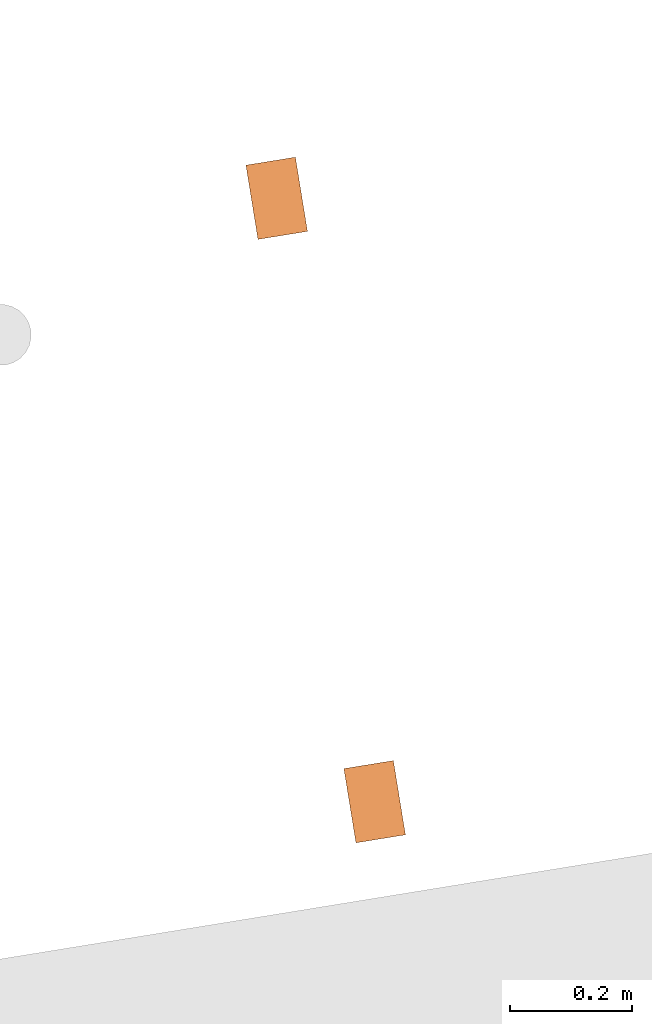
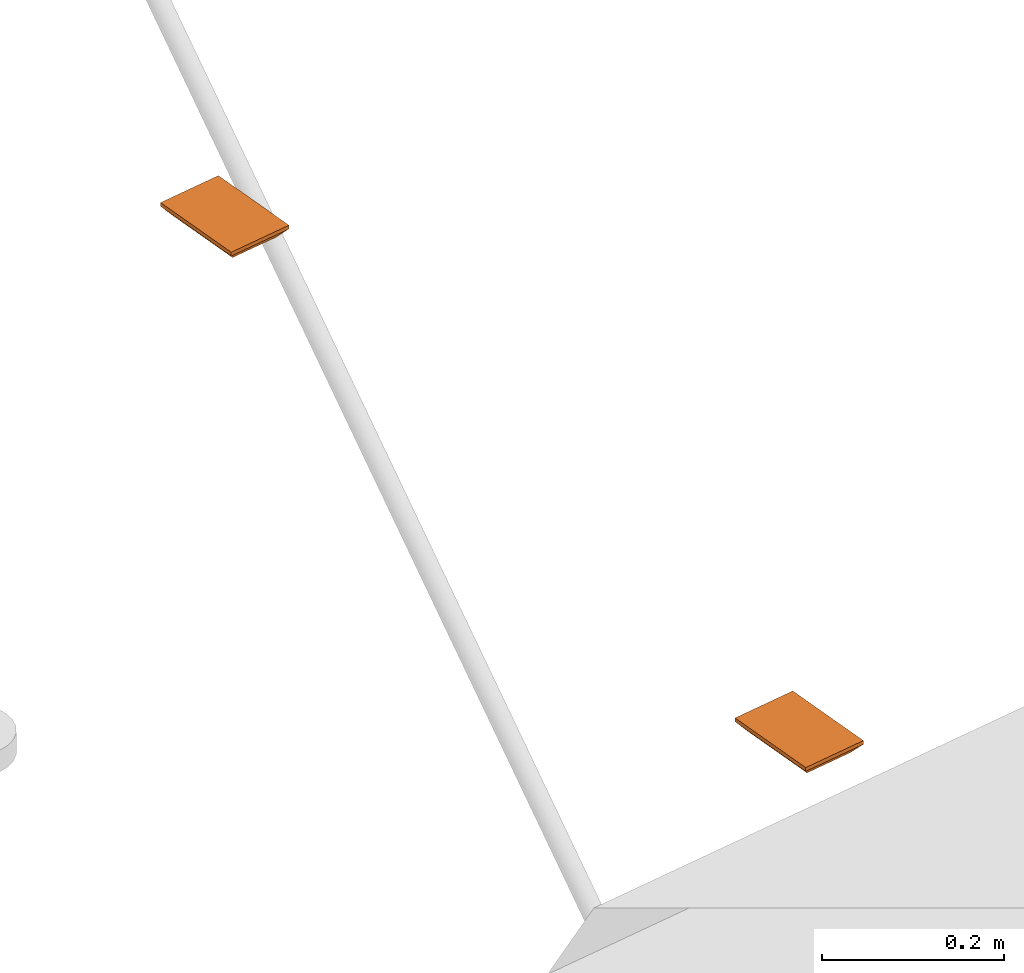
# One storey, part 19 of 33: 2 proxies.
"""IFC2X3 building model written with IfcOpenShell, lengths in millimetres."""

from ifc_helpers import new_model, entity, si_unit, converted_unit, derived_unit, direction, frame, origin, origin_with_axes, place, context, subcontext, project, spatial, faceted_brep, source, transform, mapped, material, type_object, element, save


model = new_model("IFC2X3")

# Units and contexts
plan_context = context("Plan", 3, precision=1e-05, world=origin_with_axes())
model_context = context("Model", 3, precision=0.01, world=origin(), true_north=direction((6.12323399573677e-17, 1.0)))
body_context = subcontext(model_context, "Body", "Model", "MODEL_VIEW")
ifc_project = project(units=[converted_unit("PLANEANGLEUNIT", "DEGREE", entity("IfcPositiveLengthMeasure", 0.0174532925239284), si_unit("PLANEANGLEUNIT", "RADIAN"), dimensions=[0, 0, 0, 0, 0, 0, 0]), si_unit("AREAUNIT", "SQUARE_METRE"), si_unit("LENGTHUNIT", "METRE", prefix="MILLI"), si_unit("MASSUNIT", "GRAM", prefix="KILO"), si_unit("POWERUNIT", "WATT"), si_unit("PRESSUREUNIT", "PASCAL", prefix="KILO"), si_unit("FORCEUNIT", "NEWTON", prefix="KILO"), si_unit("ELECTRICVOLTAGEUNIT", "VOLT"), si_unit("ELECTRICCURRENTUNIT", "AMPERE"), si_unit("THERMODYNAMICTEMPERATUREUNIT", "DEGREE_CELSIUS"), si_unit("TIMEUNIT", "SECOND"), si_unit("VOLUMEUNIT", "CUBIC_METRE"), derived_unit("LINEARVELOCITYUNIT", [(si_unit("LENGTHUNIT", "METRE"), 1), (si_unit("TIMEUNIT", "SECOND"), -1)]), derived_unit("VOLUMETRICFLOWRATEUNIT", [(si_unit("VOLUMEUNIT", "CUBIC_METRE"), 1), (si_unit("TIMEUNIT", "SECOND"), -1)]), derived_unit("THERMALTRANSMITTANCEUNIT", [(si_unit("POWERUNIT", "WATT"), 1), (si_unit("THERMODYNAMICTEMPERATUREUNIT", "KELVIN"), -1), (si_unit("AREAUNIT", "SQUARE_METRE"), -1)]), derived_unit("SOUNDPRESSUREUNIT", [(si_unit("PRESSUREUNIT", "PASCAL"), 1)])], contexts=[model_context, plan_context])

# Site, building, storey
site_placement = place(None, frame((-0.219946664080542, 0.12226179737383, 0.0), z_axis=(0.0, 0.0, 1.0), x_axis=(-0.160236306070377, 0.987078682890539, 0.0)))
site = spatial("IfcSite", under=ifc_project, at=site_placement, Name="Default", CompositionType="ELEMENT")
building_placement = place(site_placement, origin_with_axes())
building = spatial("IfcBuilding", under=site, at=building_placement, CompositionType="ELEMENT")
storey_placement = place(building_placement, frame((0.0, 0.0, 59000.0), z_axis=(0.0, 0.0, 1.0), x_axis=(1.0, 0.0, 0.0)))
storey = spatial("IfcBuildingStorey", under=building, at=storey_placement, Name="Nivå F", CompositionType="ELEMENT", Elevation=59000.0)

# Proxies
ifc_material = material(Name="<Unnamed>")
building_element_proxy_type = type_object("IfcBuildingElementProxyType", Name="Dobbel stikk i tak m_boks 2P+J PH:Earthed reces socket c2", PredefinedType="NOTDEFINED", material=ifc_material)
shared_shape = source(origin(), body_context, "Body", "Brep", [
    faceted_brep([(25.250000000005, -18.3000000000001, -17.8944271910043), (25.250000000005, -18.5954451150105, -17.489897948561), (25.250000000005, -18.7000000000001, -17.0), (25.250000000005, -18.7000000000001, -5.0), (25.250000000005, -19.5000000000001, -5.0), (25.250000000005, -19.5000000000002, -17.0), (25.250000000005, -18.9142135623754, -18.4142135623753), (25.250000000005, -17.5000000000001, -19.0), (25.250000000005, -17.5000000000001, -11.0), (25.250000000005, -18.3000000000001, -11.0), (24.250000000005, -19.5000000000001, -5.0), (24.250000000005, -18.7000000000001, -5.0), (24.250000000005, -18.7000000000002, -17.0), (24.250000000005, -18.5954451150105, -17.489897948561), (24.250000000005, -18.3000000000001, -17.8944271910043), (24.250000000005, -18.3000000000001, -11.0), (24.250000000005, -17.5000000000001, -11.0), (24.250000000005, -17.5000000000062, -19.0), (24.250000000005, -18.9142135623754, -18.4142135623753), (24.250000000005, -19.5000000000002, -17.0)], [[[0, 1, 2, 3, 4, 5, 6, 7, 8, 9]], [[10, 11, 12, 13, 14, 15, 16, 17, 18, 19]], [[11, 10, 4, 3]], [[12, 11, 3, 2]], [[2, 1, 13, 12]], [[0, 14, 13, 1]], [[15, 14, 0, 9]], [[16, 15, 9, 8]], [[17, 16, 8, 7]], [[17, 7, 6, 18]], [[6, 5, 19, 18]], [[10, 19, 5, 4]]]),
    faceted_brep([(24.250000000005, 18.3000000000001, -17.8944271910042), (24.250000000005, 18.5954451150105, -17.4898979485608), (24.250000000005, 18.7000000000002, -17.0), (24.250000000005, 18.7000000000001, -5.0), (24.250000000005, 19.5000000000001, -5.0), (24.250000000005, 19.5000000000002, -17.0), (24.250000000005, 18.9142135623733, -18.4142135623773), (24.250000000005, 17.5000000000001, -19.0), (24.250000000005, 17.5000000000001, -11.0), (24.250000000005, 18.3000000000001, -11.0), (25.250000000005, 19.5000000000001, -5.0), (25.250000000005, 18.7000000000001, -5.0), (25.250000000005, 18.7000000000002, -17.0), (25.250000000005, 18.5954451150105, -17.4898979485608), (25.250000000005, 18.3000000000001, -17.8944271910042), (25.250000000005, 18.3000000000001, -11.0), (25.250000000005, 17.5000000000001, -11.0), (25.250000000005, 17.5000000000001, -19.0), (25.250000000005, 18.9142135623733, -18.4142135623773), (25.250000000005, 19.5000000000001, -17.0)], [[[0, 1, 2, 3, 4, 5, 6, 7, 8, 9]], [[10, 11, 12, 13, 14, 15, 16, 17, 18, 19]], [[9, 8, 16, 15]], [[0, 9, 15, 14]], [[14, 13, 1, 0]], [[12, 2, 1, 13]], [[3, 2, 12, 11]], [[4, 3, 11, 10]], [[5, 4, 10, 19]], [[5, 19, 18, 6]], [[18, 17, 7, 6]], [[8, 7, 17, 16]]]),
    faceted_brep([(-25.249999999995, 18.9142135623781, -18.4142135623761), (-25.249999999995, 19.5000000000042, -17.0), (-25.249999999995, 19.5000000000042, -5.0), (-25.249999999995, 18.7000000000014, -5.0), (-25.249999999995, 18.7000000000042, -17.0), (-25.249999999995, 18.5954451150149, -17.4898979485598), (-25.249999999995, 18.3000000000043, -17.8944271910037), (-25.249999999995, 18.3000000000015, -11.0), (-25.249999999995, 17.5000000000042, -11.0), (-25.249999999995, 17.5000000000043, -19.0), (-26.249999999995, 19.5000000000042, -5.0), (-26.249999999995, 19.5000000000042, -17.0), (-26.249999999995, 18.9142135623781, -18.4142135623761), (-26.249999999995, 17.5000000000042, -19.0), (-26.249999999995, 17.5000000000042, -11.0), (-26.249999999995, 18.3000000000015, -11.0), (-26.249999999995, 18.3000000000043, -17.8944271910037), (-26.249999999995, 18.5954451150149, -17.4898979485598), (-26.249999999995, 18.7000000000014, -17.0), (-26.249999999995, 18.7000000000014, -5.0)], [[[0, 1, 2, 3, 4, 5, 6, 7, 8, 9]], [[10, 11, 12, 13, 14, 15, 16, 17, 18, 19]], [[11, 10, 2, 1]], [[11, 1, 0, 12]], [[0, 9, 13, 12]], [[14, 13, 9, 8]], [[16, 15, 7, 6]], [[6, 5, 17, 16]], [[4, 18, 17, 5]], [[19, 18, 4, 3]], [[10, 19, 3, 2]], [[15, 14, 8, 7]]]),
    faceted_brep([(-26.249999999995, -17.4999999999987, -5.0), (-26.249999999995, -17.4999999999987, -19.0), (-26.249999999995, -18.9142135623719, -18.4142135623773), (-26.249999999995, -19.4999999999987, -17.0), (-26.249999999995, -19.4999999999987, -11.0), (-26.249999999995, -18.6999999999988, -11.0), (-26.249999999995, -18.6999999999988, -17.0), (-26.249999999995, -18.5954451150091, -17.4898979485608), (-26.249999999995, -18.2999999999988, -17.8944271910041), (-26.249999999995, -18.2999999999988, -5.0), (-25.249999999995, -17.4999999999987, -19.0), (-25.249999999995, -17.4999999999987, -5.0), (-25.249999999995, -18.2999999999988, -5.0), (-25.249999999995, -18.2999999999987, -17.8944271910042), (-25.249999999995, -18.5954451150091, -17.4898979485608), (-25.249999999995, -18.6999999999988, -17.0), (-25.249999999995, -18.6999999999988, -11.0), (-25.249999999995, -19.4999999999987, -11.0), (-25.249999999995, -19.4999999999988, -17.0), (-25.249999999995, -18.9142135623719, -18.4142135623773)], [[[0, 1, 2, 3, 4, 5, 6, 7, 8, 9]], [[10, 11, 12, 13, 14, 15, 16, 17, 18, 19]], [[1, 0, 11, 10]], [[10, 19, 2, 1]], [[2, 19, 18, 3]], [[4, 3, 18, 17]], [[5, 4, 17, 16]], [[6, 5, 16, 15]], [[14, 7, 6, 15]], [[13, 8, 7, 14]], [[9, 8, 13, 12]], [[0, 9, 12, 11]]]),
    faceted_brep([(15.7500000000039, -2.5, -5.0), (16.3750000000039, -1.875, -5.0), (17.0, -1.25, -5.0), (17.6250000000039, -0.625000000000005, -5.0), (18.2500000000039, 0.0, -5.0), (17.7008289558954, 0.54917104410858, -5.0), (17.0, 1.25, -5.0), (16.375000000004, 1.875, -5.0), (15.750000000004, 2.5, -5.0), (15.125000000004, 1.87500000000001, -5.0), (14.500000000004, 1.25000000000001, -5.0), (13.8750000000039, 0.625000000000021, -5.0), (13.2500000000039, 0.0, -5.0), (13.7991710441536, -0.549171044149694, -5.0), (14.5000000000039, -1.25, -5.0), (15.1250000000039, -1.875, -5.0), (17.7008289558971, -0.549171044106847, -5.20000000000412), (17.1516579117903, -1.09834208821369, -5.20000000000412), (16.4508289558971, -1.79917104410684, -5.20000000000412), (15.7500000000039, -2.5, -5.20000000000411), (15.1250000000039, -1.875, -5.20000000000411), (14.5000000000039, -1.25, -5.20000000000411), (13.8750000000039, -0.625, -5.20000000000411), (13.2500000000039, 0.0, -5.2000000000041), (13.7991710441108, 0.54917104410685, -5.20000000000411), (14.3483420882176, 1.09834208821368, -5.20000000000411), (15.0491710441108, 1.79917104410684, -5.20000000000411), (15.750000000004, 2.5, -5.20000000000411), (16.375000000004, 1.875, -5.20000000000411), (17.0, 1.25, -5.20000000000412), (17.6250000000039, 0.624999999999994, -5.20000000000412), (18.2500000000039, 0.0, -5.20000000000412)], [[[0, 1, 2, 3, 4, 5, 6, 7, 8, 9, 10, 11, 12, 13, 14, 15]], [[16, 17, 18, 19, 20, 21, 22, 23, 24, 25, 26, 27, 28, 29, 30, 31]], [[29, 28, 27, 8, 7, 6, 5, 4, 31, 30]], [[8, 27, 26, 25, 24, 23, 12, 11, 10, 9]], [[21, 20, 19, 0, 15, 14, 13, 12, 23, 22]], [[0, 19, 18, 17, 16, 31, 4, 3, 2, 1]]]),
    faceted_brep([(35.0491710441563, -1.79917104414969, -5.20000000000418), (34.348342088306, -1.09834208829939, -5.20000000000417), (33.7991710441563, -0.549171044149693, -5.20000000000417), (33.2500000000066, 0.0, -5.20000000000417), (33.8750000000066, 0.625000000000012, -5.20000000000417), (34.5000000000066, 1.25000000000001, -5.20000000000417), (35.1250000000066, 1.875, -5.20000000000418), (35.7500000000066, 2.5, -5.20000000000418), (36.450828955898, 1.79917104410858, -5.20000000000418), (37.1516579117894, 1.09834208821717, -5.20000000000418), (37.700828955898, 0.54917104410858, -5.20000000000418), (38.2500000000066, 0.0, -5.20000000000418), (37.6250000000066, -0.625000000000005, -5.20000000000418), (37.0, -1.25, -5.20000000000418), (36.3750000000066, -1.875, -5.20000000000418), (35.7500000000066, -2.5, -5.20000000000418), (35.1250000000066, 1.87500000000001, -5.0), (34.5000000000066, 1.25000000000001, -5.0), (33.7991710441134, 0.549171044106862, -5.0), (33.2500000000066, 0.0, -5.0), (33.8750000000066, -0.625, -5.0), (34.5000000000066, -1.25, -5.0), (35.1250000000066, -1.875, -5.0), (35.7500000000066, -2.5, -5.0), (36.3750000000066, -1.875, -5.0), (37.0, -1.25, -5.0), (37.7008289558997, -0.549171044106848, -5.0), (38.2500000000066, 0.0, -5.0), (37.6250000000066, 0.624999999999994, -5.0), (37.0, 1.25, -5.0), (36.3750000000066, 1.875, -5.0), (35.7500000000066, 2.5, -5.0)], [[[0, 1, 2, 3, 4, 5, 6, 7, 8, 9, 10, 11, 12, 13, 14, 15]], [[16, 17, 18, 19, 20, 21, 22, 23, 24, 25, 26, 27, 28, 29, 30, 31]], [[30, 29, 28, 27, 11, 10, 9, 8, 7, 31]], [[31, 7, 6, 5, 4, 3, 19, 18, 17, 16]], [[22, 21, 20, 19, 3, 2, 1, 0, 15, 23]], [[23, 15, 14, 13, 12, 11, 27, 26, 25, 24]]]),
    faceted_brep([(-36.3749999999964, 1.87500000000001, -5.0), (-37.0, 1.25000000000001, -5.0), (-37.6249999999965, 0.625000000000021, -5.0), (-38.2499999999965, 0.0, -5.0), (-37.7008289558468, -0.549171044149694, -5.0), (-37.0, -1.25, -5.0), (-36.3749999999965, -1.875, -5.0), (-35.7499999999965, -2.5, -5.0), (-35.1249999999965, -1.875, -5.0), (-34.4999999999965, -1.25, -5.0), (-33.8749999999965, -0.625000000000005, -5.0), (-33.2499999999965, 0.0, -5.0), (-33.799171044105, 0.54917104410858, -5.0), (-34.4999999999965, 1.25, -5.0), (-35.1249999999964, 1.875, -5.0), (-35.7499999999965, 2.5, -5.0), (-36.3749999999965, -1.875, -5.20000000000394), (-37.0, -1.25, -5.20000000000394), (-37.6249999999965, -0.625, -5.20000000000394), (-38.2499999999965, 0.0, -5.20000000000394), (-37.7008289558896, 0.54917104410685, -5.20000000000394), (-37.1516579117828, 1.09834208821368, -5.20000000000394), (-36.4508289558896, 1.79917104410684, -5.20000000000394), (-35.7499999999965, 2.5, -5.20000000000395), (-35.1249999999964, 1.875, -5.20000000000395), (-34.4999999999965, 1.25, -5.20000000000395), (-33.8749999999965, 0.624999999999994, -5.20000000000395), (-33.2499999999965, 0.0, -5.20000000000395), (-33.7991710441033, -0.549171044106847, -5.20000000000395), (-34.3483420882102, -1.09834208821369, -5.20000000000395), (-35.0491710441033, -1.79917104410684, -5.20000000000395), (-35.7499999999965, -2.5, -5.20000000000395)], [[[0, 1, 2, 3, 4, 5, 6, 7, 8, 9, 10, 11, 12, 13, 14, 15]], [[16, 17, 18, 19, 20, 21, 22, 23, 24, 25, 26, 27, 28, 29, 30, 31]], [[25, 24, 23, 15, 14, 13, 12, 11, 27, 26]], [[15, 23, 22, 21, 20, 19, 3, 2, 1, 0]], [[17, 16, 31, 7, 6, 5, 4, 3, 19, 18]], [[7, 31, 30, 29, 28, 27, 11, 10, 9, 8]]]),
    faceted_brep([(-16.4508289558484, -1.79917104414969, -5.20000000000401), (-17.1516579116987, -1.09834208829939, -5.20000000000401), (-17.7008289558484, -0.549171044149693, -5.200000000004), (-18.2499999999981, 0.0, -5.200000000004), (-17.6249999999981, 0.625000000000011, -5.200000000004), (-17.0, 1.25000000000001, -5.20000000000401), (-16.3749999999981, 1.875, -5.20000000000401), (-15.7499999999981, 2.5, -5.20000000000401), (-15.0491710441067, 1.79917104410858, -5.20000000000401), (-14.3483420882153, 1.09834208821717, -5.20000000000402), (-13.7991710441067, 0.549171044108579, -5.20000000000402), (-13.2499999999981, 0.0, -5.20000000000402), (-13.8749999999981, -0.625000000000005, -5.20000000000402), (-14.4999999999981, -1.25, -5.20000000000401), (-15.1249999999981, -1.875, -5.20000000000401), (-15.7499999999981, -2.5, -5.20000000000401), (-16.3749999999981, 1.87500000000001, -5.0), (-17.0, 1.25000000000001, -5.0), (-17.7008289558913, 0.549171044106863, -5.0), (-18.2499999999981, 0.0, -5.0), (-17.6249999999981, -0.625, -5.0), (-17.0, -1.25, -5.0), (-16.3749999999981, -1.875, -5.0), (-15.7499999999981, -2.5, -5.0), (-15.1249999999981, -1.875, -5.0), (-14.4999999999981, -1.25, -5.0), (-13.799171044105, -0.549171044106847, -5.0), (-13.2499999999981, 0.0, -5.0), (-13.8749999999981, 0.624999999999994, -5.0), (-14.4999999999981, 1.25, -5.0), (-15.1249999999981, 1.875, -5.0), (-15.7499999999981, 2.5, -5.0)], [[[0, 1, 2, 3, 4, 5, 6, 7, 8, 9, 10, 11, 12, 13, 14, 15]], [[16, 17, 18, 19, 20, 21, 22, 23, 24, 25, 26, 27, 28, 29, 30, 31]], [[30, 29, 28, 27, 11, 10, 9, 8, 7, 31]], [[31, 7, 6, 5, 4, 3, 19, 18, 17, 16]], [[22, 21, 20, 19, 3, 2, 1, 0, 15, 23]], [[23, 15, 14, 13, 12, 11, 27, 26, 25, 24]]]),
    faceted_brep([(-51.5000000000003, -31.0, -17.0), (-35.7500000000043, -17.3205080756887, -17.0), (-30.9263809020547, -19.3185165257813, -17.0), (-39.8921356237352, -14.1421356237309, -17.0), (-25.750000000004, -20.0, -17.0), (-20.5736190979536, -19.3185165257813, -17.0), (20.5736190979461, -19.3185165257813, -17.0), (-43.070508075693, -10.0, -17.0), (-45.0685165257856, -5.1763809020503, -17.0), (-45.7500000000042, 0.0, -17.0), (51.5000000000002, -31.0, -17.0), (-51.5000000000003, 31.0, -17.0), (-45.0685165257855, 5.17638090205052, -17.0), (-43.0705080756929, 10.0, -17.0), (-39.892135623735, 14.142135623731, -17.0), (-35.7500000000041, 17.3205080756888, -17.0), (-30.9263809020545, 19.3185165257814, -17.0), (-25.7500000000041, 20.0, -17.0), (-20.5736190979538, 19.3185165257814, -17.0), (20.5736190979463, 19.3185165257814, -17.0), (51.5000000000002, 31.0, -17.0), (25.7499999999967, 20.0, -17.0), (30.926380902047, 19.3185165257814, -17.0), (35.7499999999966, 17.3205080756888, -17.0), (39.8921356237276, 14.142135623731, -17.0), (43.0705080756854, 10.0, -17.0), (45.068516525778, 5.1763809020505, -17.0), (45.7499999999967, 0.0, -17.0), (25.7499999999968, -20.0, -17.0), (30.9263809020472, -19.3185165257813, -17.0), (35.7499999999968, -17.3205080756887, -17.0), (39.8921356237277, -14.1421356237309, -17.0), (43.0705080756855, -10.0, -17.0), (45.0685165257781, -5.17638090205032, -17.0), (15.7499999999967, 17.3205080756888, -17.0), (-15.7500000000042, 17.3205080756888, -17.0), (11.6078643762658, 14.142135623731, -17.0), (-11.6078643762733, 14.142135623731, -17.0), (8.42949192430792, 10.0, -17.0), (-8.42949192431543, 10.0, -17.0), (6.4314834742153, 5.17638090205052, -17.0), (-6.43148347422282, 5.1763809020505, -17.0), (-5.75000000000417, 0.0, -17.0), (5.74999999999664, 0.0, -17.0), (6.43148347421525, -5.1763809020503, -17.0), (-6.43148347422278, -5.17638090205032, -17.0), (-8.42949192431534, -10.0, -17.0), (8.42949192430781, -10.0, -17.0), (-11.6078643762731, -14.1421356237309, -17.0), (11.6078643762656, -14.1421356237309, -17.0), (-15.7500000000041, -17.3205080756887, -17.0), (15.7499999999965, -17.3205080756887, -17.0), (61.5000000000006, -41.0, -5.0), (35.7499999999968, -17.3205080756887, -5.0), (30.9263809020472, -19.3185165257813, -5.0), (39.8921356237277, -14.1421356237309, -5.0), (25.7499999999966, -20.0, -5.0), (20.5736190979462, -19.3185165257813, -5.0), (-20.5736190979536, -19.3185165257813, -5.0), (43.0705080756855, -10.0, -5.0), (45.0685165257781, -5.17638090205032, -5.0), (45.7499999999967, 0.0, -5.0), (-61.5000000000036, -41.0, -5.0), (61.5000000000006, 41.0, -5.0), (45.068516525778, 5.1763809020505, -5.0), (43.0705080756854, 10.0, -5.0), (39.8921356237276, 14.142135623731, -5.0), (35.7499999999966, 17.3205080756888, -5.0), (30.9263809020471, 19.3185165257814, -5.0), (25.7499999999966, 20.0, -5.0), (20.5736190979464, 19.3185165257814, -5.0), (-20.5736190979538, 19.3185165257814, -5.0), (-61.5000000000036, 41.0, -5.0), (-25.7500000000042, 20.0, -5.0), (-30.9263809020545, 19.3185165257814, -5.0), (-35.750000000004, 17.3205080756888, -5.0), (-39.892135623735, 14.142135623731, -5.0), (-43.0705080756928, 10.0, -5.0), (-45.0685165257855, 5.17638090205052, -5.0), (-45.7500000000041, 0.0, -5.0), (-25.7500000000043, -20.0, -5.0), (-30.9263809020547, -19.3185165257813, -5.0), (-35.7500000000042, -17.3205080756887, -5.0), (-39.8921356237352, -14.1421356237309, -5.0), (-43.070508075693, -10.0, -5.0), (-45.0685165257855, -5.1763809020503, -5.0), (-15.7500000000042, 17.3205080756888, -5.0), (15.7499999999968, 17.3205080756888, -5.0), (-11.6078643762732, 14.142135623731, -5.0), (11.6078643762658, 14.142135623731, -5.0), (-8.4294919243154, 10.0, -5.0), (8.42949192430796, 10.0, -5.0), (-6.43148347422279, 5.1763809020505, -5.0), (6.43148347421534, 5.17638090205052, -5.0), (5.74999999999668, 0.0, -5.0), (-5.75000000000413, 0.0, -5.0), (-6.43148347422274, -5.17638090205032, -5.0), (6.43148347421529, -5.1763809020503, -5.0), (8.42949192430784, -10.0, -5.0), (-8.4294919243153, -10.0, -5.0), (11.6078643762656, -14.1421356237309, -5.0), (-11.6078643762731, -14.1421356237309, -5.0), (15.7499999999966, -17.3205080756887, -5.0), (-15.750000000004, -17.3205080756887, -5.0)], [[[0, 1, 2]], [[1, 0, 3]], [[0, 2, 4]], [[4, 5, 0]], [[0, 5, 6]], [[7, 3, 0]], [[8, 7, 0]], [[0, 9, 8]], [[6, 10, 0]], [[9, 0, 11]], [[12, 9, 11]], [[13, 12, 11]], [[11, 14, 13]], [[14, 11, 15]], [[15, 11, 16]], [[17, 16, 11]], [[18, 17, 11]], [[11, 19, 18]], [[19, 11, 20]], [[21, 19, 20]], [[20, 22, 21]], [[22, 20, 23]], [[24, 23, 20]], [[24, 20, 25]], [[26, 25, 20]], [[27, 26, 20]], [[27, 20, 10]], [[6, 28, 10]], [[29, 10, 28]], [[10, 29, 30]], [[10, 30, 31]], [[31, 32, 10]], [[32, 33, 10]], [[10, 33, 27]], [[19, 34, 18]], [[35, 18, 34]], [[36, 35, 34]], [[37, 35, 36]], [[36, 38, 37]], [[39, 37, 38]], [[38, 40, 39]], [[41, 39, 40]], [[40, 42, 41]], [[42, 40, 43]], [[43, 44, 42]], [[45, 42, 44]], [[46, 45, 44]], [[44, 47, 46]], [[48, 46, 47]], [[47, 49, 48]], [[50, 48, 49]], [[51, 50, 49]], [[5, 50, 51]], [[51, 6, 5]], [[52, 53, 54]], [[53, 52, 55]], [[52, 54, 56]], [[56, 57, 52]], [[52, 57, 58]], [[59, 55, 52]], [[60, 59, 52]], [[52, 61, 60]], [[58, 62, 52]], [[61, 52, 63]], [[64, 61, 63]], [[65, 64, 63]], [[63, 66, 65]], [[66, 63, 67]], [[67, 63, 68]], [[69, 68, 63]], [[70, 69, 63]], [[70, 63, 71]], [[63, 72, 71]], [[73, 71, 72]], [[72, 74, 73]], [[74, 72, 75]], [[76, 75, 72]], [[76, 72, 77]], [[78, 77, 72]], [[79, 78, 72]], [[79, 72, 62]], [[58, 80, 62]], [[81, 62, 80]], [[62, 81, 82]], [[62, 82, 83]], [[83, 84, 62]], [[84, 85, 62]], [[62, 85, 79]], [[86, 70, 71]], [[86, 87, 70]], [[88, 87, 86]], [[89, 87, 88]], [[88, 90, 89]], [[91, 89, 90]], [[90, 92, 91]], [[93, 91, 92]], [[92, 94, 93]], [[94, 92, 95]], [[95, 96, 94]], [[97, 94, 96]], [[98, 97, 96]], [[96, 99, 98]], [[100, 98, 99]], [[99, 101, 100]], [[102, 100, 101]], [[103, 102, 101]], [[103, 57, 102]], [[58, 57, 103]], [[20, 63, 52, 10]], [[11, 72, 63, 20]], [[0, 62, 72, 11]], [[10, 52, 62, 0]], [[73, 17, 18, 71]], [[71, 18, 35, 86]], [[90, 88, 37, 39]], [[37, 88, 86, 35]], [[92, 90, 39, 41]], [[92, 41, 42, 95]], [[95, 42, 45, 96]], [[96, 45, 46, 99]], [[103, 101, 48, 50]], [[48, 101, 99, 46]], [[58, 103, 50, 5]], [[58, 5, 4, 80]], [[80, 4, 2, 81]], [[81, 2, 1, 82]], [[84, 83, 3, 7]], [[3, 83, 82, 1]], [[85, 84, 7, 8]], [[85, 8, 9, 79]], [[79, 9, 12, 78]], [[78, 12, 13, 77]], [[75, 76, 14, 15]], [[14, 76, 77, 13]], [[74, 75, 15, 16]], [[74, 16, 17, 73]], [[69, 21, 22, 68]], [[68, 22, 23, 67]], [[65, 66, 24, 25]], [[23, 24, 66, 67]], [[64, 65, 25, 26]], [[27, 61, 64, 26]], [[60, 33, 32, 59]], [[59, 32, 31, 55]], [[54, 53, 30, 29]], [[31, 30, 53, 55]], [[56, 54, 29, 28]], [[60, 61, 27, 33]], [[56, 28, 6, 57]], [[57, 6, 51, 102]], [[98, 100, 49, 47]], [[51, 49, 100, 102]], [[97, 98, 47, 44]], [[43, 94, 97, 44]], [[93, 40, 38, 91]], [[91, 38, 36, 89]], [[70, 87, 34, 19]], [[36, 34, 87, 89]], [[69, 70, 19, 21]], [[93, 94, 43, 40]]]),
    faceted_brep([(61.5000000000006, -41.0, 0.0), (61.5000000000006, 41.0, 0.0), (-61.5000000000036, 41.0, 0.0), (-61.5000000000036, -41.0, 0.0), (61.5000000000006, -41.0, -5.0), (-61.5000000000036, -41.0, -5.0), (-61.5000000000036, 41.0, -5.0), (61.5000000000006, 41.0, -5.0)], [[[0, 1, 2, 3]], [[4, 5, 6, 7]], [[1, 0, 4, 7]], [[2, 1, 7, 6]], [[3, 2, 6, 5]], [[0, 3, 5, 4]]]),
])
for number, where, z_axis, x_axis in (
    (1, (775832.388455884, -502963.994469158, 2650.0), (0.0, 0.0, 1.0), (1.0, 0.0, 0.0)),
    (2, (776832.388455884, -502963.994469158, 2800.0), (0.0, 0.0, 1.0), (1.0, 0.0, 0.0)),
):
    element("IfcBuildingElementProxy", number, at=place(storey_placement, frame(where, z_axis=z_axis, x_axis=x_axis)), inside=storey, type_object=building_element_proxy_type, material=ifc_material, Name="Dobbel stikk i tak m_boks 2P+J PH:Earthed reces socket c2", ObjectType="Dobbel stikk i tak m_boks 2P+J PH:Earthed reces socket c2", context=body_context, shape_type="MappedRepresentation", body=[
        mapped(shared_shape, transform((0.0, 0.0, 0.0), scale=1.0)),
    ])

save(model, "model.ifc")
